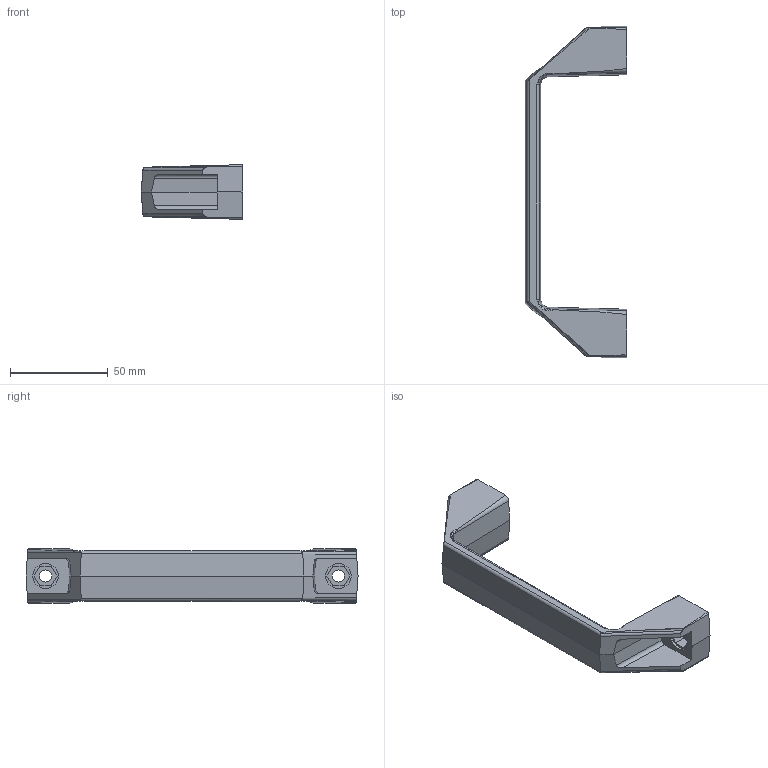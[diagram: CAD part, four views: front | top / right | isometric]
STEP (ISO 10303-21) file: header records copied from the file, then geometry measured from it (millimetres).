
FILE_DESCRIPTION(('STEP AP203'),'1');
FILE_NAME('87-7-2203.stp','2021-02-18T08:32:04',('TraceParts'),('TraceParts S.A.'),'Spatial InterOp 3D',' ',' ');
FILE_SCHEMA(('CONFIG_CONTROL_DESIGN'));
Length unit declared in the file: millimetre
Products named in the file (1): 1
Bounding box: 52 x 170 x 28 mm (x, y, z)
Volume: 49199.2 mm3; surface area: 19766.2 mm2
Topology: 1 solids, 1 shells, 102 faces, 274 edges, 178 vertices
Faces by surface type: plane 54, cylinder 36, torus 8, cone 4
Entity records: 3476 total; most frequent: CARTESIAN_POINT 863, ORIENTED_EDGE 548, DIRECTION 528, EDGE_CURVE 274, AXIS2_PLACEMENT_3D 189, VERTEX_POINT 178, LINE 150, VECTOR 150
